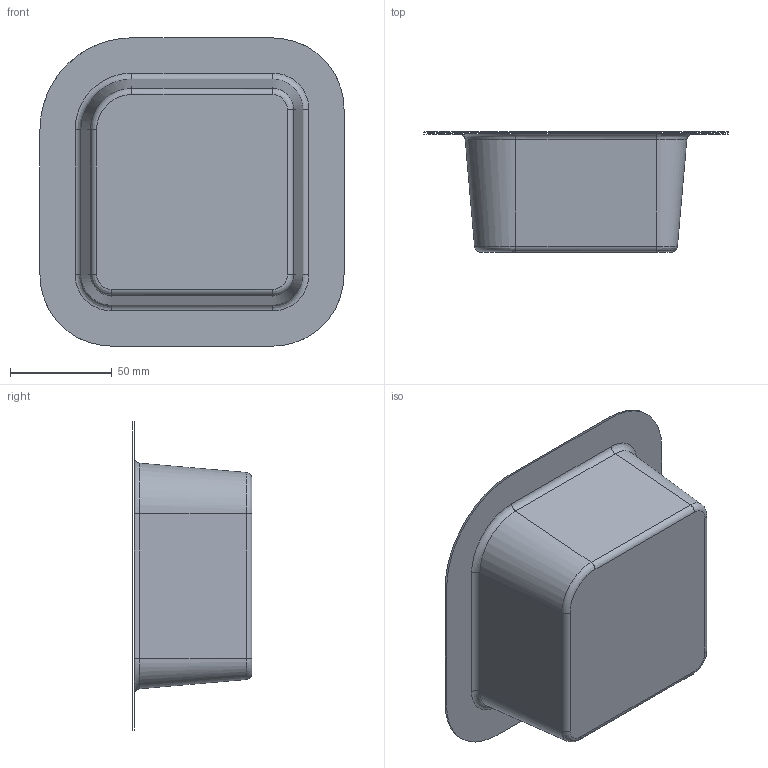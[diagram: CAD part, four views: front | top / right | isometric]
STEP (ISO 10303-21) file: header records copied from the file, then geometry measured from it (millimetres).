
FILE_DESCRIPTION(('CATIA V5 STEP Exchange'),'2;1');
FILE_NAME('C:\_Andres\UNIVERSIDAD\IQS\ASIGNATURAS\DAO\Controles\1617\c3\2inicio\Altirriba_Cusco_control3_v1.stp','2017-02-17T14:22:00+00:00',('none'),('none'),'CATIA Version 5-6 Release 2014 SP1 HF18','CATIA V5 STEP AP203','none');
FILE_SCHEMA(('CONFIG_CONTROL_DESIGN'));
Length unit declared in the file: millimetre
Products named in the file (1): Altirriba_Cusco_control3_v1
Bounding box: 149.11 x 58.78 x 151.11 mm (x, y, z)
Surface area: 62666.8 mm2 (no closed solid volume)
Topology: 0 solids, 2 shells, 27 faces, 80 edges, 57 vertices
Faces by surface type: bspline 16, cylinder 8, plane 3
Entity records: 1907 total; most frequent: CARTESIAN_POINT 1311, ORIENTED_EDGE 128, EDGE_CURVE 72, B_SPLINE_CURVE_WITH_KNOTS 54, DIRECTION 50, VERTEX_POINT 48, EDGE_LOOP 28, ADVANCED_FACE 27
